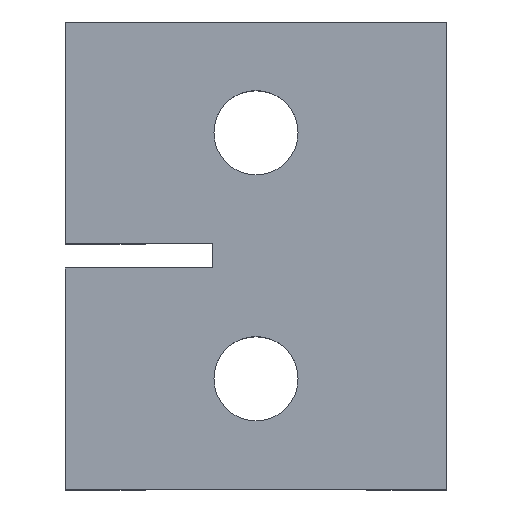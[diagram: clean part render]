
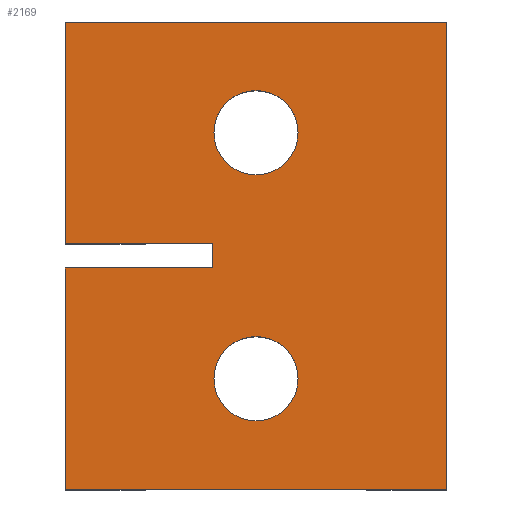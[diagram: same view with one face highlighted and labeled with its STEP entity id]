
A CAD part, top view. The second image highlights one B-rep face of the part: STEP entity #2169.
In plain terms, the highlighted planar face has unit normal (0, 0, 1).
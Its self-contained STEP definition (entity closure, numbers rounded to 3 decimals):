
#143=CARTESIAN_POINT('',(1.711,-5.0,7.0));
#144=VERTEX_POINT('',#143);
#160=CARTESIAN_POINT('',(-1.711,-5.0,7.0));
#161=VERTEX_POINT('',#160);
#168=CARTESIAN_POINT('',(0.,-5.0,7.0));
#169=DIRECTION('',(0.0,0.0,-1.0));
#170=DIRECTION('',(1.0,0.0,0.0));
#171=AXIS2_PLACEMENT_3D('',#168,#169,#170);
#172=CIRCLE('',#171,1.711);
#173=EDGE_CURVE('',#144,#161,#172,.T.);
#269=CARTESIAN_POINT('',(1.711,5.,7.0));
#270=VERTEX_POINT('',#269);
#286=CARTESIAN_POINT('',(-1.711,5.,7.0));
#287=VERTEX_POINT('',#286);
#294=CARTESIAN_POINT('',(0.,5.,7.0));
#295=DIRECTION('',(0.0,0.0,-1.0));
#296=DIRECTION('',(1.0,0.0,0.0));
#297=AXIS2_PLACEMENT_3D('',#294,#295,#296);
#298=CIRCLE('',#297,1.711);
#299=EDGE_CURVE('',#270,#287,#298,.T.);
#675=CARTESIAN_POINT('',(-1.75,0.5,7.0));
#676=VERTEX_POINT('',#675);
#683=CARTESIAN_POINT('',(-7.75,0.5,7.0));
#684=VERTEX_POINT('',#683);
#685=CARTESIAN_POINT('',(-7.75,0.5,7.0));
#686=DIRECTION('',(1.0,0.0,0.0));
#687=VECTOR('',#686,6.0);
#688=LINE('',#685,#687);
#689=EDGE_CURVE('',#684,#676,#688,.T.);
#854=CARTESIAN_POINT('',(-7.75,-0.5,7.0));
#855=VERTEX_POINT('',#854);
#862=CARTESIAN_POINT('',(-1.75,-0.5,7.0));
#863=VERTEX_POINT('',#862);
#864=CARTESIAN_POINT('',(-1.75,-0.5,7.0));
#865=DIRECTION('',(-1.0,0.0,0.0));
#866=VECTOR('',#865,6.0);
#867=LINE('',#864,#866);
#868=EDGE_CURVE('',#863,#855,#867,.T.);
#1113=CARTESIAN_POINT('',(7.75,-9.5,7.0));
#1114=VERTEX_POINT('',#1113);
#1121=CARTESIAN_POINT('',(-7.75,-9.5,7.0));
#1122=VERTEX_POINT('',#1121);
#1123=CARTESIAN_POINT('',(7.75,-9.5,7.0));
#1124=DIRECTION('',(-1.0,0.0,0.0));
#1125=VECTOR('',#1124,15.5);
#1126=LINE('',#1123,#1125);
#1127=EDGE_CURVE('',#1114,#1122,#1126,.T.);
#1399=CARTESIAN_POINT('',(-7.75,9.5,7.0));
#1400=VERTEX_POINT('',#1399);
#1407=CARTESIAN_POINT('',(7.75,9.5,7.0));
#1408=VERTEX_POINT('',#1407);
#1409=CARTESIAN_POINT('',(-7.75,9.5,7.0));
#1410=DIRECTION('',(1.0,0.0,0.0));
#1411=VECTOR('',#1410,15.5);
#1412=LINE('',#1409,#1411);
#1413=EDGE_CURVE('',#1400,#1408,#1412,.T.);
#1996=CARTESIAN_POINT('',(0.,5.,7.0));
#1997=DIRECTION('',(0.0,0.0,-1.0));
#1998=DIRECTION('',(1.0,0.0,0.0));
#1999=AXIS2_PLACEMENT_3D('',#1996,#1997,#1998);
#2000=CIRCLE('',#1999,1.711);
#2001=EDGE_CURVE('',#287,#270,#2000,.T.);
#2050=CARTESIAN_POINT('',(0.,-5.0,7.0));
#2051=DIRECTION('',(0.0,0.0,-1.0));
#2052=DIRECTION('',(1.0,0.0,0.0));
#2053=AXIS2_PLACEMENT_3D('',#2050,#2051,#2052);
#2054=CIRCLE('',#2053,1.711);
#2055=EDGE_CURVE('',#161,#144,#2054,.T.);
#2069=CARTESIAN_POINT('',(-1.75,0.5,7.0));
#2070=DIRECTION('',(0.0,-1.0,0.0));
#2071=VECTOR('',#2070,1.0);
#2072=LINE('',#2069,#2071);
#2073=EDGE_CURVE('',#676,#863,#2072,.T.);
#2085=CARTESIAN_POINT('',(-7.75,0.5,7.0));
#2086=DIRECTION('',(0.0,1.0,0.0));
#2087=VECTOR('',#2086,9.0);
#2088=LINE('',#2085,#2087);
#2089=EDGE_CURVE('',#684,#1400,#2088,.T.);
#2108=CARTESIAN_POINT('',(-7.75,-9.5,7.0));
#2109=DIRECTION('',(0.0,1.0,0.0));
#2110=VECTOR('',#2109,9.0);
#2111=LINE('',#2108,#2110);
#2112=EDGE_CURVE('',#1122,#855,#2111,.T.);
#2126=CARTESIAN_POINT('',(7.75,9.5,7.0));
#2127=DIRECTION('',(0.0,-1.0,0.0));
#2128=VECTOR('',#2127,19.0);
#2129=LINE('',#2126,#2128);
#2130=EDGE_CURVE('',#1408,#1114,#2129,.T.);
#2146=CARTESIAN_POINT('',(0.,0.,7.0));
#2147=DIRECTION('',(0.0,0.0,1.0));
#2148=DIRECTION('',(1.0,0.0,0.0));
#2149=AXIS2_PLACEMENT_3D('',#2146,#2147,#2148);
#2150=PLANE('',#2149);
#2151=ORIENTED_EDGE('',*,*,#868,.T.);
#2152=ORIENTED_EDGE('',*,*,#2112,.F.);
#2153=ORIENTED_EDGE('',*,*,#1127,.F.);
#2154=ORIENTED_EDGE('',*,*,#2130,.F.);
#2155=ORIENTED_EDGE('',*,*,#1413,.F.);
#2156=ORIENTED_EDGE('',*,*,#2089,.F.);
#2157=ORIENTED_EDGE('',*,*,#689,.T.);
#2158=ORIENTED_EDGE('',*,*,#2073,.T.);
#2159=EDGE_LOOP('',(#2151,#2152,#2153,#2154,#2155,#2156,#2157,#2158));
#2160=FACE_OUTER_BOUND('',#2159,.T.);
#2161=ORIENTED_EDGE('',*,*,#2055,.T.);
#2162=ORIENTED_EDGE('',*,*,#173,.T.);
#2163=EDGE_LOOP('',(#2161,#2162));
#2164=FACE_BOUND('',#2163,.T.);
#2165=ORIENTED_EDGE('',*,*,#2001,.T.);
#2166=ORIENTED_EDGE('',*,*,#299,.T.);
#2167=EDGE_LOOP('',(#2165,#2166));
#2168=FACE_BOUND('',#2167,.T.);
#2169=ADVANCED_FACE('',(#2160,#2164,#2168),#2150,.T.);
